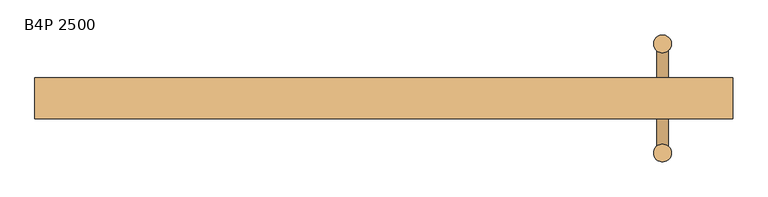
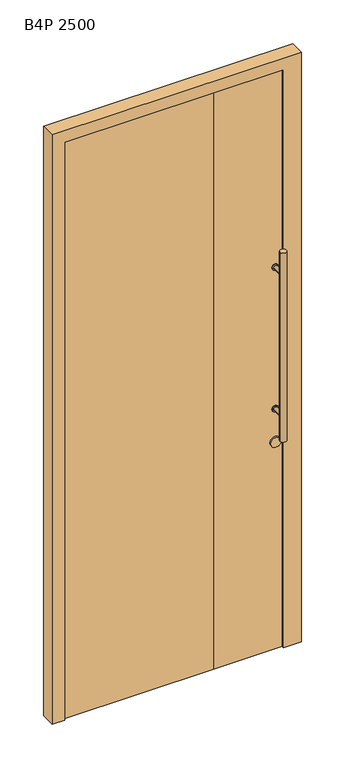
"""IFC4 building model written with IfcOpenShell, lengths in millimetres: door geometry, Mobiliário_Mobiliário de Escritório_Porta de Giro Pivotante - BP_Marelli : B4P 2500."""

from ifc_helpers import new_model, si_unit, point, frame, frame_2d, origin, place, context, project, spatial, polyline, circle_curve, trimmed, segment, composite_curve, outline, extrude, faceted_brep, source, transform, mapped, element, save


def b4p_2500_df99608c(model_context):
    return source(origin(), model_context, "Body", "SolidModel", [
        extrude(outline(polyline([(-447.5, -8.0), (-447.5, 34.0), (190.5, 34.0), (447.5, 34.0), (447.5, -8.0), (152.5, -8.0), (-447.5, -8.0)])), frame((0.0, 0.0, 0.2), z_axis=(0.0, 0.0, 1.0), x_axis=(1.0, 0.0, 0.0)), (0.0, 0.0, 1.0), 2448.3),
        faceted_brep([(-500.0, 42.5, 0.0), (-429.0, 42.5, 0.0), (-429.0, 34.0, 0.0), (-450.0, 34.0, 0.0), (-450.0, -16.5, 0.0), (-500.0, -16.5, 0.0), (500.0, -16.5, 0.0), (429.0, -16.5, 0.0), (429.0, -8.0, 0.0), (450.0, -8.0, 0.0), (450.0, 42.5, 0.0), (500.0, 42.5, 0.0), (-500.0, -16.5, 2500.0), (-500.0, 42.5, 2500.0), (-450.0, -16.5, 2450.0), (429.0, -16.5, 2450.0), (500.0, -16.5, 2500.0), (-450.0, 34.0, 2429.0), (-450.0, 27.0, 2429.0), (-450.0, 27.0, 2450.0), (-429.0, 34.0, 2429.0), (-429.0, 42.5, 2429.0), (500.0, 42.5, 2500.0), (450.0, 42.5, 2429.0), (450.0, -8.0, 2450.0), (450.0, 27.0, 2450.0), (450.0, 27.0, 2429.0), (429.0, -8.0, 2450.0)], [[[0, 1, 2, 3, 4, 5]], [[6, 7, 8, 9, 10, 11]], [[0, 5, 12, 13]], [[12, 5, 4, 14, 15, 7, 6, 16]], [[3, 17, 18, 19, 14, 4]], [[2, 20, 17, 3]], [[1, 21, 20, 2]], [[22, 11, 10, 23, 21, 1, 0, 13]], [[6, 11, 22, 16]], [[9, 24, 25, 26, 23, 10]], [[8, 27, 24, 9]], [[7, 15, 27, 8]], [[22, 13, 12, 16]], [[23, 26, 18, 17, 20, 21]], [[14, 19, 25, 24, 27, 15]], [[26, 25, 19, 18]]]),
        extrude(outline(composite_curve([segment(trimmed(circle_curve(frame_2d((880.75, 399.5)), 20.75), [point((880.75, 378.75))], [point((880.75, 420.25))], False, "CARTESIAN"), True, "CONTINUOUS"), segment(trimmed(circle_curve(frame_2d((880.75, 399.5)), 20.75), [point((880.75, 420.25))], [point((880.75, 378.75))], False, "CARTESIAN"), True, "CONTINUOUS")], self_intersect=False)), frame((0.0, -16.0, 0.0), z_axis=(0.0, 1.0, 0.0), x_axis=(0.0, 0.0, 1.0)), (0.0, 0.0, 1.0), 8.0),
        extrude(outline(composite_curve([segment(trimmed(circle_curve(frame_2d((880.75, 399.5)), 20.75), [point((880.75, 378.75))], [point((880.75, 420.25))], False, "CARTESIAN"), True, "CONTINUOUS"), segment(trimmed(circle_curve(frame_2d((880.75, 399.5)), 20.75), [point((880.75, 420.25))], [point((880.75, 378.75))], False, "CARTESIAN"), True, "CONTINUOUS")], self_intersect=False)), frame((0.0, 34.0, 0.0), z_axis=(0.0, 1.0, 0.0), x_axis=(0.0, 0.0, 1.0)), (0.0, 0.0, 1.0), 8.0),
        extrude(outline(composite_curve([segment(trimmed(circle_curve(frame_2d((399.5, 91.2)), 12.7), [point((386.8, 91.2))], [point((412.2, 91.2))], False, "CARTESIAN"), True, "CONTINUOUS"), segment(trimmed(circle_curve(frame_2d((399.5, 91.2)), 12.7), [point((412.2, 91.2))], [point((386.8, 91.2))], False, "CARTESIAN"), True, "CONTINUOUS")], self_intersect=False)), frame((0.0, 0.0, 920.0), z_axis=(0.0, 0.0, 1.0), x_axis=(1.0, 0.0, 0.0)), (0.0, 0.0, 1.0), 800.0),
        extrude(outline(composite_curve([segment(trimmed(circle_curve(frame_2d((399.5, -65.2)), 12.7), [point((386.8, -65.2))], [point((412.2, -65.2))], False, "CARTESIAN"), True, "CONTINUOUS"), segment(trimmed(circle_curve(frame_2d((399.5, -65.2)), 12.7), [point((412.2, -65.2))], [point((386.8, -65.2))], False, "CARTESIAN"), True, "CONTINUOUS")], self_intersect=False)), frame((0.0, 0.0, 920.0), z_axis=(0.0, 0.0, 1.0), x_axis=(1.0, 0.0, 0.0)), (0.0, 0.0, 1.0), 800.0),
        extrude(outline(composite_curve([segment(trimmed(circle_curve(frame_2d((1020.0, 399.5)), 12.7), [point((1020.0, 386.8))], [point((1020.0, 412.2))], False, "CARTESIAN"), True, "CONTINUOUS"), segment(trimmed(circle_curve(frame_2d((1020.0, 399.5)), 12.7), [point((1020.0, 412.2))], [point((1020.0, 386.8))], False, "CARTESIAN"), True, "CONTINUOUS")], self_intersect=False)), frame((0.0, -12.0, 0.0), z_axis=(0.0, 1.0, 0.0), x_axis=(0.0, 0.0, 1.0)), (0.0, 0.0, 1.0), 50.0),
        extrude(outline(composite_curve([segment(trimmed(circle_curve(frame_2d((1620.0, 399.5)), 12.7), [point((1620.0, 386.8))], [point((1620.0, 412.2))], False, "CARTESIAN"), True, "CONTINUOUS"), segment(trimmed(circle_curve(frame_2d((1620.0, 399.5)), 12.7), [point((1620.0, 412.2))], [point((1620.0, 386.8))], False, "CARTESIAN"), True, "CONTINUOUS")], self_intersect=False)), frame((0.0, -12.0, 0.0), z_axis=(0.0, 1.0, 0.0), x_axis=(0.0, 0.0, 1.0)), (0.0, 0.0, 1.0), 50.0),
        extrude(outline(composite_curve([segment(trimmed(circle_curve(frame_2d((1020.0, 399.5)), 8.0), [point((1020.0, 391.5))], [point((1020.0, 407.5))], False, "CARTESIAN"), True, "CONTINUOUS"), segment(trimmed(circle_curve(frame_2d((1020.0, 399.5)), 8.0), [point((1020.0, 407.5))], [point((1020.0, 391.5))], False, "CARTESIAN"), True, "CONTINUOUS")], self_intersect=False)), frame((0.0, -62.9261526, 0.0), z_axis=(0.0, 1.0, 0.0), x_axis=(0.0, 0.0, 1.0)), (0.0, 0.0, 1.0), 151.9261526),
        extrude(outline(composite_curve([segment(trimmed(circle_curve(frame_2d((1620.0, 399.5)), 8.0), [point((1620.0, 391.5))], [point((1620.0, 407.5))], False, "CARTESIAN"), True, "CONTINUOUS"), segment(trimmed(circle_curve(frame_2d((1620.0, 399.5)), 8.0), [point((1620.0, 407.5))], [point((1620.0, 391.5))], False, "CARTESIAN"), True, "CONTINUOUS")], self_intersect=False)), frame((0.0, -62.9261526, 0.0), z_axis=(0.0, 1.0, 0.0), x_axis=(0.0, 0.0, 1.0)), (0.0, 0.0, 1.0), 151.9261526),
    ])


if __name__ == "__main__":
    model = new_model("IFC4")
    model_context = context("Model", 3, world=origin())
    ifc_project = project(units=[si_unit("LENGTHUNIT", "METRE", prefix="MILLI")], contexts=[model_context])
    site = spatial("IfcSite", under=ifc_project)
    building = spatial("IfcBuilding", under=site)
    placement = place(None, origin())
    b4p_2500_shape = b4p_2500_df99608c(model_context)
    element("IfcDoor", 1, ObjectType="Mobiliário_Mobiliário de Escritório_Porta de Giro Pivotante - BP_Marelli : B4P 2500", at=placement, inside=building, context=model_context, shape_type="MappedRepresentation", body=[
        mapped(b4p_2500_shape, transform((0.0, 0.0, 0.0), x_axis=(1.0, 0.0, 0.0), y_axis=(0.0, 1.0, 0.0), z_axis=(0.0, 0.0, 1.0))),
    ])
    save(model, "model.ifc")
